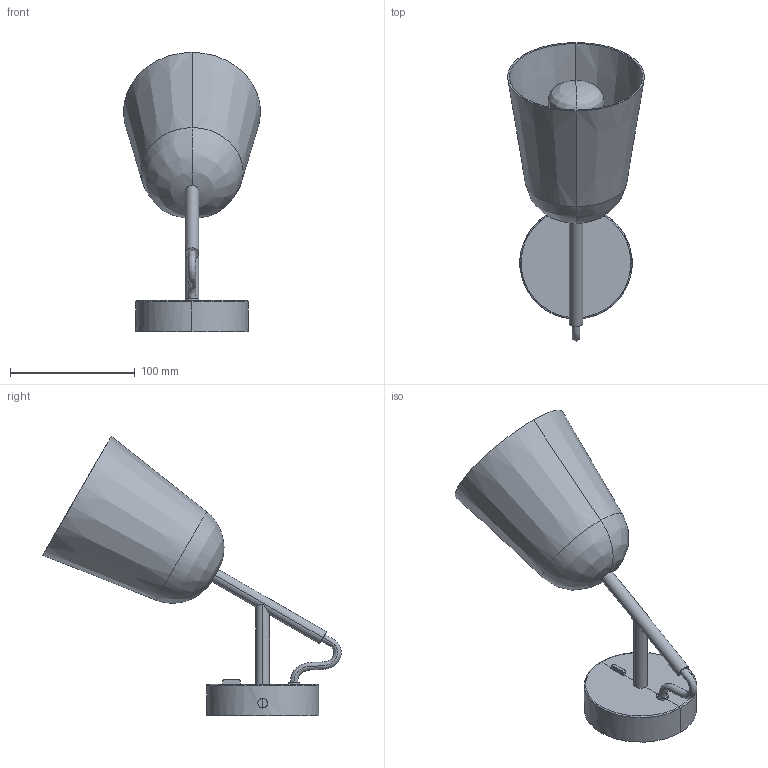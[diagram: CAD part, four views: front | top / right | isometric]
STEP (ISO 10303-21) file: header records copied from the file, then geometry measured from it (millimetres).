
FILE_DESCRIPTION(/* description */ (''),/* implementation_level */ '2;1');
FILE_NAME(/* name */ '28257.step',/* time_stamp */ '2024-06-06T16:31:17+02:00',/* author */ ('RenataManzini'),/* organization */ (''),/* preprocessor_version */ 'ST-DEVELOPER v20',/* originating_system */ 'AutoCAD Mechanical',/* authorisation */ '');
FILE_SCHEMA (('AUTOMOTIVE_DESIGN { 1 0 10303 214 3 1 1 }'));
Length unit declared in the file: millimetre
Products named in the file (2): Product; studio_aplique - STUDIO-464781-_3D_
Assembly tree (1 placements, depth 2):
  Product
    studio_aplique - STUDIO-464781-_3D_
Bounding box: 110.05 x 239.56 x 224.06 mm (x, y, z)
Volume: 186259.7 mm3; surface area: 127612.3 mm2
Topology: 10 solids, 10 shells, 117 faces, 262 edges, 164 vertices
Faces by surface type: plane 57, cylinder 36, cone 12, bspline 10, torus 2
Entity records: 5733 total; most frequent: CARTESIAN_POINT 3115, DIRECTION 529, ORIENTED_EDGE 514, EDGE_CURVE 257, AXIS2_PLACEMENT_3D 199, VERTEX_POINT 159, EDGE_LOOP 134, LINE 131
